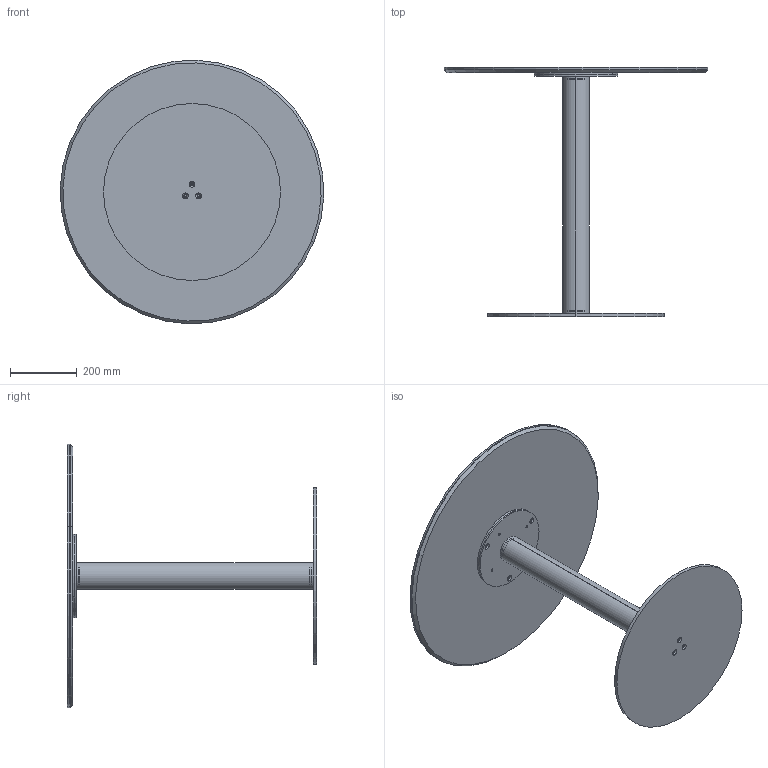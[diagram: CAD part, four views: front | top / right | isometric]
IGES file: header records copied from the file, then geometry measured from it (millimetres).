
Start section: SolidWorks IGES file using analytic representation for surfaces
Global section: file name: Y:\eforma\TECNICO\SOLIDWORKS\E-FORMA\5-TAVOLINI BISTRO\CILINDRO BISTRÒ\02 parts\CB17C.IGS; native system: SolidWorks 2022; preprocessor: SolidWorks 2022; author: eforma.tech; date: 240808.102445; units: millimetre
Bounding box: 789.44 x 747 x 789.44 mm (x, y, z)
Volume: 10893099.2 mm3; surface area: 3021647.8 mm2
Topology: 8 solids, 8 shells, 110 faces, 254 edges, 160 vertices
Faces by surface type: revolution 94, plane 16
